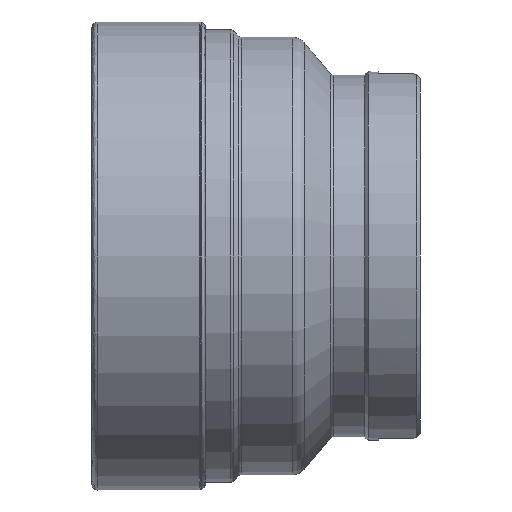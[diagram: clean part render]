
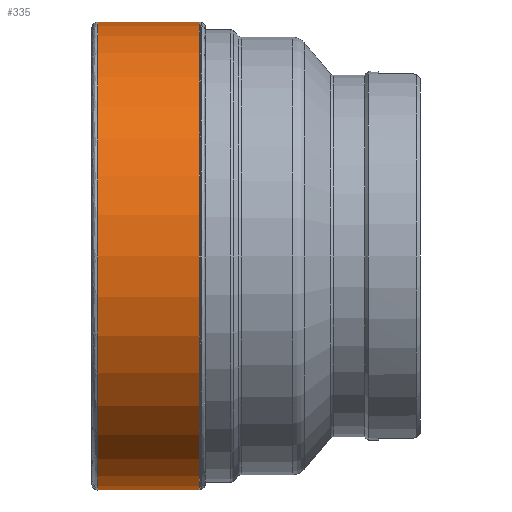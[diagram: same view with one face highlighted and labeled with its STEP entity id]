
A CAD part, front view. The second image highlights one B-rep face of the part: STEP entity #335.
In plain terms, the highlighted face is a revolution surface.
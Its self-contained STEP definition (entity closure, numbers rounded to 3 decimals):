
#50=SURFACE_OF_REVOLUTION('',#204,#71);
#71=AXIS1_PLACEMENT('',#2350,#1554);
#204=B_SPLINE_CURVE_WITH_KNOTS('',5,(#2344,#2345,#2346,#2347,#2348,#2349),
 .UNSPECIFIED.,.F.,.F.,(6,6),(0.,1.),.UNSPECIFIED.);
#335=ADVANCED_FACE('',(#464,#465),#50,.T.);
#464=FACE_BOUND('',#598,.T.);
#465=FACE_BOUND('',#599,.T.);
#598=EDGE_LOOP('',(#842));
#599=EDGE_LOOP('',(#843));
#842=ORIENTED_EDGE('',*,*,#1065,.T.);
#843=ORIENTED_EDGE('',*,*,#1064,.F.);
#942=VERTEX_POINT('',#2334);
#943=VERTEX_POINT('',#2343);
#1064=EDGE_CURVE('',#942,#942,#1128,.T.);
#1065=EDGE_CURVE('',#943,#943,#1129,.T.);
#1128=CIRCLE('',#1255,31.68);
#1129=CIRCLE('',#1256,31.7);
#1255=AXIS2_PLACEMENT_3D('',#2333,#1549,#1550);
#1256=AXIS2_PLACEMENT_3D('',#2342,#1552,#1553);
#1549=DIRECTION('',(1.,0.,0.));
#1550=DIRECTION('',(0.,0.,1.));
#1552=DIRECTION('',(1.,0.,0.));
#1553=DIRECTION('',(0.,0.,1.));
#1554=DIRECTION('',(-1.,0.,0.));
#2333=CARTESIAN_POINT('',(14.559,0.,0.));
#2334=CARTESIAN_POINT('',(14.559,0.,31.68));
#2342=CARTESIAN_POINT('',(0.803,0.,0.));
#2343=CARTESIAN_POINT('',(0.803,0.,31.7));
#2344=CARTESIAN_POINT('',(14.559,0.,31.68));
#2345=CARTESIAN_POINT('',(11.808,0.,31.683));
#2346=CARTESIAN_POINT('',(9.057,0.,31.687));
#2347=CARTESIAN_POINT('',(6.306,0.,31.691));
#2348=CARTESIAN_POINT('',(3.554,0.,31.695));
#2349=CARTESIAN_POINT('',(0.803,0.,31.7));
#2350=CARTESIAN_POINT('',(0.,0.,0.));
